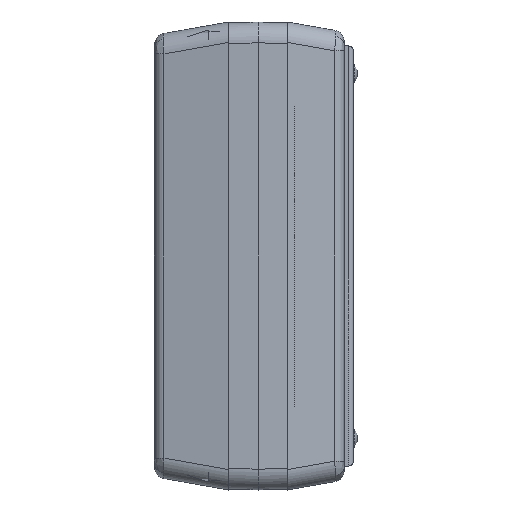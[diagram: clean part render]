
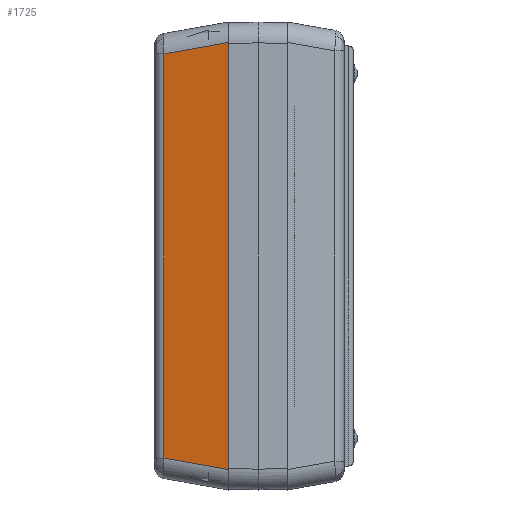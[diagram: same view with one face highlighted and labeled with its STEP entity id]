
A CAD part, left-side view. The second image highlights one B-rep face of the part: STEP entity #1725.
In plain terms, the highlighted planar face has unit normal (-0.985, 0.174, 0).
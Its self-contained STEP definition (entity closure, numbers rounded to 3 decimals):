
#1635 = ORIENTED_EDGE ( 'NONE', *, *, #26364, .T. ) ;
#1725 = ADVANCED_FACE ( 'NONE', ( #15731 ), #27818, .T. ) ;
#2742 = CARTESIAN_POINT ( 'NONE',  ( -92.462, 16.097, 43.43 ) ) ;
#3312 = LINE ( 'NONE', #7814, #15225 ) ;
#3783 = VECTOR ( 'NONE', #19235, 1000. ) ;
#3930 = ORIENTED_EDGE ( 'NONE', *, *, #30035, .T. ) ;
#5462 = ORIENTED_EDGE ( 'NONE', *, *, #21151, .T. ) ;
#5658 = CARTESIAN_POINT ( 'NONE',  ( -95.3, 0., 46.268 ) ) ;
#7505 = CARTESIAN_POINT ( 'NONE',  ( -92.825, 14.034, 43.794 ) ) ;
#7814 = CARTESIAN_POINT ( 'NONE',  ( -95.3, 0., -50.7 ) ) ;
#7838 = VECTOR ( 'NONE', #17960, 1000. ) ;
#10070 = CARTESIAN_POINT ( 'NONE',  ( -95.3, 0., -50.7 ) ) ;
#11980 = CARTESIAN_POINT ( 'NONE',  ( -92.825, 14.034, -47.861 ) ) ;
#12013 = CARTESIAN_POINT ( 'NONE',  ( -95.3, 0., -46.268 ) ) ;
#12032 = AXIS2_PLACEMENT_3D ( 'NONE', #10070, #27923, #12633 ) ;
#12265 = VERTEX_POINT ( 'NONE', #16629 ) ;
#12633 = DIRECTION ( 'NONE',  ( -0.174, -0.985, 0. ) ) ;
#15225 = VECTOR ( 'NONE', #23076, 1000. ) ;
#15731 = FACE_OUTER_BOUND ( 'NONE', #28779, .T. ) ;
#16470 = LINE ( 'NONE', #11980, #3783 ) ;
#16537 = VECTOR ( 'NONE', #17312, 1000. ) ;
#16629 = CARTESIAN_POINT ( 'NONE',  ( -92.825, 14.034, -43.794 ) ) ;
#17312 = DIRECTION ( 'NONE',  ( -0.171, -0.97, -0.171 ) ) ;
#17960 = DIRECTION ( 'NONE',  ( 0.171, 0.97, -0.171 ) ) ;
#19235 = DIRECTION ( 'NONE',  ( 0., 0., -1. ) ) ;
#21151 = EDGE_CURVE ( 'NONE', #12265, #30403, #23314, .T. ) ;
#23076 = DIRECTION ( 'NONE',  ( 0., 0., 1. ) ) ;
#23314 = LINE ( 'NONE', #30008, #16537 ) ;
#25626 = EDGE_CURVE ( 'NONE', #26487, #12265, #16470, .T. ) ;
#26364 = EDGE_CURVE ( 'NONE', #30403, #29607, #3312, .T. ) ;
#26487 = VERTEX_POINT ( 'NONE', #7505 ) ;
#27818 = PLANE ( 'NONE',  #12032 ) ;
#27923 = DIRECTION ( 'NONE',  ( -0.985, 0.174, 0. ) ) ;
#28779 = EDGE_LOOP ( 'NONE', ( #1635, #3930, #29563, #5462 ) ) ;
#29563 = ORIENTED_EDGE ( 'NONE', *, *, #25626, .T. ) ;
#29607 = VERTEX_POINT ( 'NONE', #5658 ) ;
#30008 = CARTESIAN_POINT ( 'NONE',  ( -95.43, -0.736, -46.398 ) ) ;
#30035 = EDGE_CURVE ( 'NONE', #29607, #26487, #31316, .T. ) ;
#30403 = VERTEX_POINT ( 'NONE', #12013 ) ;
#31316 = LINE ( 'NONE', #2742, #7838 ) ;
